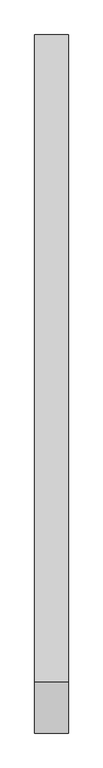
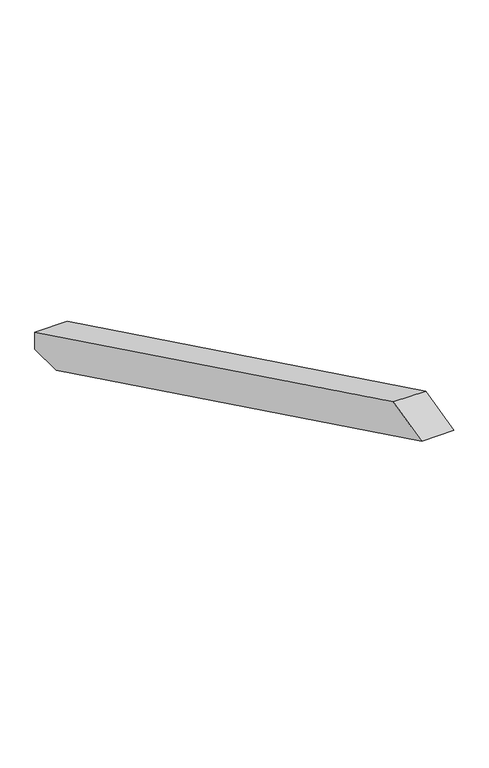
"""IFC4 building model written with IfcOpenShell, lengths in millimetres: proxy geometry, Modelos genéricos 16 : Modelos genéricos 16."""

from ifc_helpers import new_model, si_unit, frame, origin, place, context, project, spatial, polyline, outline, extrude, source, transform, mapped, element, save


def generic_models_cd607528(model_context):
    return source(origin(), model_context, "Body", "SweptSolid", [
        extrude(outline(polyline([(723.3927505, 3756.8218964), (1878.6238165, 3193.3780582), (1878.6238165, 3160.0), (1810.1886555, 3160.0), (632.8220197, 3734.240077), (723.3927505, 3756.8218964)])), frame((-12676.5527533, 0.0, 0.0), z_axis=(1.0, 0.0, 0.0), x_axis=(0.0, 1.0, 0.0)), (0.0, 0.0, 1.0), 60.0),
    ])


if __name__ == "__main__":
    model = new_model("IFC4")
    model_context = context("Model", 3, world=origin())
    ifc_project = project(units=[si_unit("LENGTHUNIT", "METRE", prefix="MILLI")], contexts=[model_context])
    site = spatial("IfcSite", under=ifc_project)
    building = spatial("IfcBuilding", under=site)
    placement = place(None, origin())
    generic_models_shape = generic_models_cd607528(model_context)
    element("IfcBuildingElementProxy", 1, Name="Modelos genéricos 16 : Modelos genéricos 16", ObjectType="Modelos genéricos 16 : Modelos genéricos 16", at=placement, inside=building, context=model_context, shape_type="MappedRepresentation", body=[
        mapped(generic_models_shape, transform((0.0, 0.0, 0.0), x_axis=(1.0, 0.0, 0.0), y_axis=(0.0, 1.0, 0.0), z_axis=(0.0, 0.0, 1.0))),
    ])
    save(model, "model.ifc")
